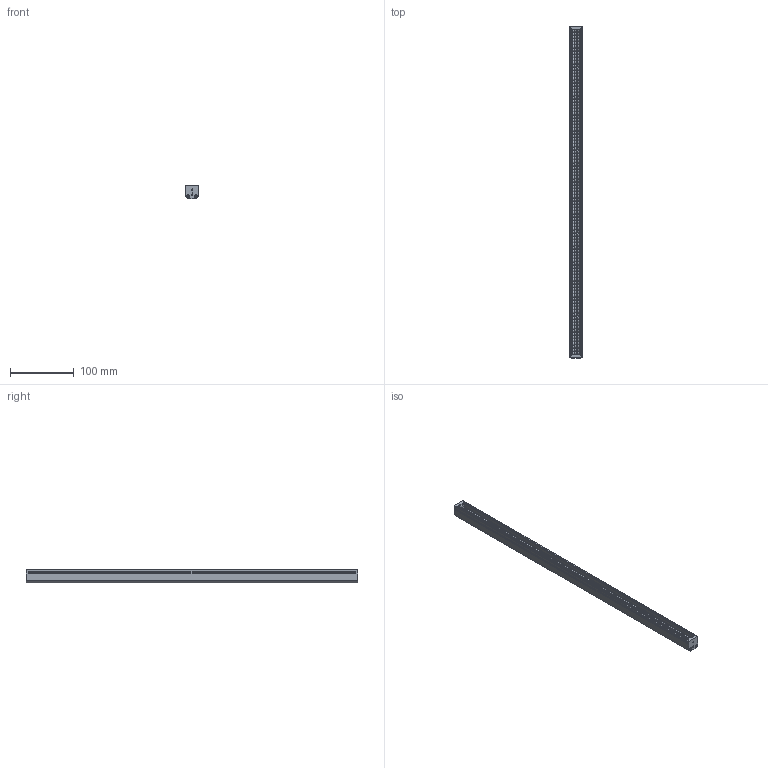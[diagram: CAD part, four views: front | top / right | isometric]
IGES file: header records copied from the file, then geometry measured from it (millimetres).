
Start section: SolidWorks IGES file using analytic representation for surfaces
Global section: file name: C:\Users\Administrator\Desktop\20200117170124558325.IGS; native system: SolidWorks 2019; preprocessor: SolidWorks 2019; author: Administrator; date: 200227.175038; units: millimetre
Bounding box: 20 x 520 x 21 mm (x, y, z)
Surface area: 94130.7 mm2 (no closed solid volume)
Topology: 0 solids, 0 shells, 789 faces, 8716 edges, 8100 vertices
Faces by surface type: bspline 740, revolution 49
